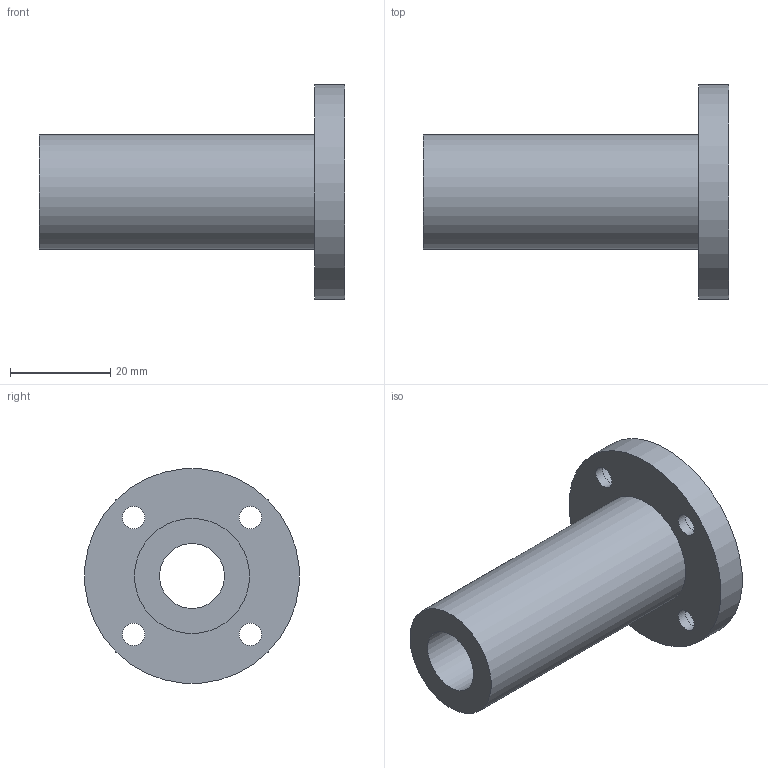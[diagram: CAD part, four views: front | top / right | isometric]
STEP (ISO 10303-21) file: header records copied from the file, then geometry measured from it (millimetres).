
FILE_DESCRIPTION(/* description */ (''),/* implementation_level */ '2;1');
FILE_NAME(/* name */ 'LMF13LUU',/* time_stamp */ '2019-07-03T10:02:40+02:00',/* author */ ('VĂ©gh MĂˇtĂ©'),/* organization */ ('Bearing Kft'),/* preprocessor_version */ 'ST-DEVELOPER v16.7',/* originating_system */ 'DEX',/* authorisation */ $);
FILE_SCHEMA (('AUTOMOTIVE_DESIGN {1 0 10303 214 3 1 1}'));
Length unit declared in the file: millimetre
Products named in the file (1): LMF13LUU
Bounding box: 61 x 42.84 x 42.84 mm (x, y, z)
Volume: 22620.5 mm3; surface area: 10297.6 mm2
Topology: 1 solids, 1 shells, 327 faces, 822 edges, 548 vertices
Faces by surface type: plane 253, bspline 60, cylinder 14
Full cylindrical faces by diameter (mm): 4.5 x4, 7.5 x4, 13 x1, 23 x1, 43 x1
Entity records: 12328 total; most frequent: CARTESIAN_POINT 4840, ORIENTED_EDGE 1620, DIRECTION 1254, EDGE_CURVE 810, LINE 662, VECTOR 662, VERTEX_POINT 548, EDGE_LOOP 400
